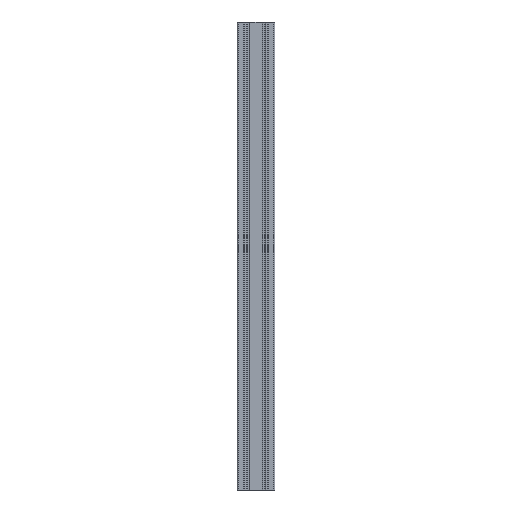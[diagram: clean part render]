
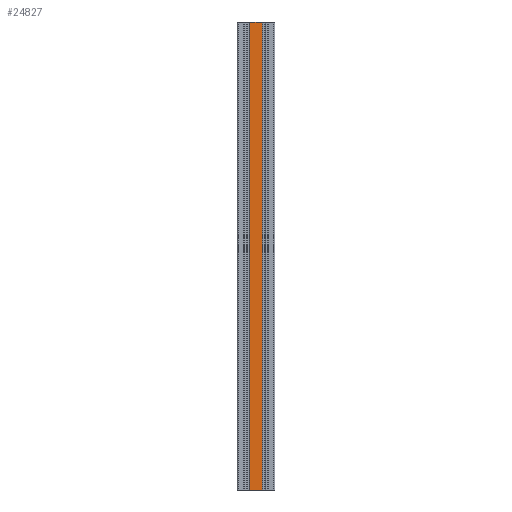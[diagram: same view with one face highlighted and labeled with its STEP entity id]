
A CAD part, left-side view. The second image highlights one B-rep face of the part: STEP entity #24827.
In plain terms, the highlighted planar face has unit normal (-1, 0, 0).
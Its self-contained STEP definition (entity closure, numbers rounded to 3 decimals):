
#342 = CARTESIAN_POINT ( 'NONE',  ( -40., -13.7, 0. ) ) ;
#1096 = EDGE_CURVE ( 'NONE', #5246, #17829, #9473, .T. ) ;
#1563 = EDGE_CURVE ( 'NONE', #17829, #15362, #4267, .T. ) ;
#1575 = CARTESIAN_POINT ( 'NONE',  ( -40., -13.7, -1000. ) ) ;
#3028 = ORIENTED_EDGE ( 'NONE', *, *, #26556, .F. ) ;
#3954 = DIRECTION ( 'NONE',  ( 0., -1., 0. ) ) ;
#4267 = LINE ( 'NONE', #21280, #26686 ) ;
#4851 = CARTESIAN_POINT ( 'NONE',  ( -40., 13.7, 0. ) ) ;
#5246 = VERTEX_POINT ( 'NONE', #24531 ) ;
#5322 = CARTESIAN_POINT ( 'NONE',  ( -40., 13.7, -1000. ) ) ;
#8997 = ORIENTED_EDGE ( 'NONE', *, *, #25937, .F. ) ;
#9473 = LINE ( 'NONE', #19622, #21434 ) ;
#10518 = PLANE ( 'NONE',  #11507 ) ;
#10631 = LINE ( 'NONE', #5322, #27152 ) ;
#11059 = FACE_OUTER_BOUND ( 'NONE', #29031, .T. ) ;
#11507 = AXIS2_PLACEMENT_3D ( 'NONE', #26230, #12798, #28507 ) ;
#12798 = DIRECTION ( 'NONE',  ( -1., 0., 0. ) ) ;
#14270 = CARTESIAN_POINT ( 'NONE',  ( -40., -13.7, 0. ) ) ;
#14765 = VERTEX_POINT ( 'NONE', #4851 ) ;
#15362 = VERTEX_POINT ( 'NONE', #342 ) ;
#16531 = DIRECTION ( 'NONE',  ( 0., -1., 0. ) ) ;
#16908 = DIRECTION ( 'NONE',  ( 0., 0., 1. ) ) ;
#17829 = VERTEX_POINT ( 'NONE', #1575 ) ;
#19622 = CARTESIAN_POINT ( 'NONE',  ( -40., 13.7, -1000. ) ) ;
#19775 = LINE ( 'NONE', #14270, #20468 ) ;
#20468 = VECTOR ( 'NONE', #16531, 1000. ) ;
#21016 = DIRECTION ( 'NONE',  ( 0., 0., 1. ) ) ;
#21171 = ORIENTED_EDGE ( 'NONE', *, *, #1563, .T. ) ;
#21280 = CARTESIAN_POINT ( 'NONE',  ( -40., -13.7, -1000. ) ) ;
#21434 = VECTOR ( 'NONE', #3954, 1000. ) ;
#24531 = CARTESIAN_POINT ( 'NONE',  ( -40., 13.7, -1000. ) ) ;
#24827 = ADVANCED_FACE ( 'NONE', ( #11059 ), #10518, .T. ) ;
#25937 = EDGE_CURVE ( 'NONE', #14765, #15362, #19775, .T. ) ;
#26230 = CARTESIAN_POINT ( 'NONE',  ( -40., -13.7, -1000. ) ) ;
#26556 = EDGE_CURVE ( 'NONE', #5246, #14765, #10631, .T. ) ;
#26686 = VECTOR ( 'NONE', #16908, 1000. ) ;
#27152 = VECTOR ( 'NONE', #21016, 1000. ) ;
#27388 = ORIENTED_EDGE ( 'NONE', *, *, #1096, .T. ) ;
#28507 = DIRECTION ( 'NONE',  ( 0., 0., 1. ) ) ;
#29031 = EDGE_LOOP ( 'NONE', ( #8997, #3028, #27388, #21171 ) ) ;
